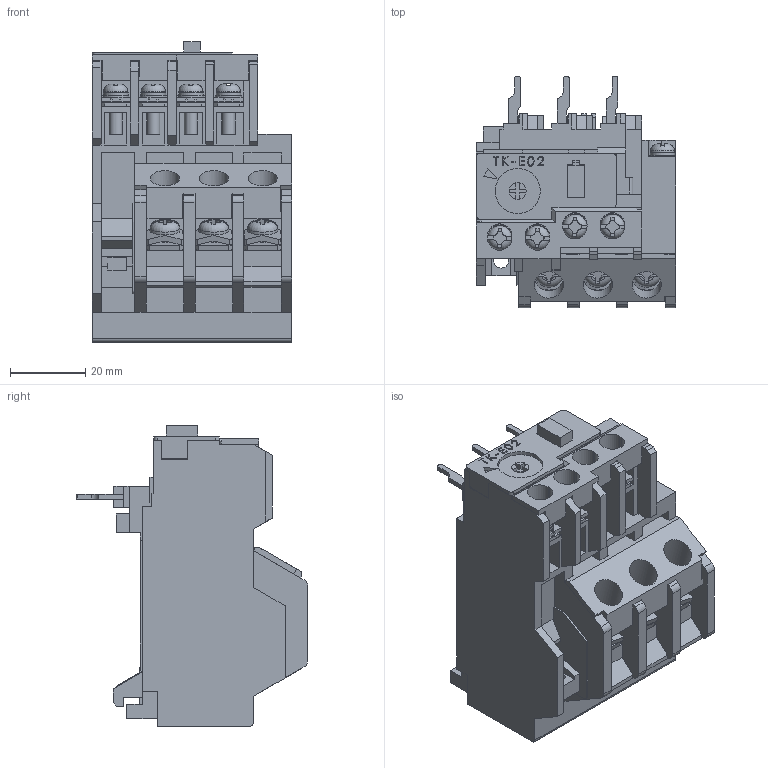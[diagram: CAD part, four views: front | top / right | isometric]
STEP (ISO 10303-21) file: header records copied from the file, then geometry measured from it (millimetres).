
FILE_DESCRIPTION (( 'STEP AP214' ), '1' );
FILE_NAME ('TK-E02.STEP', '2016-03-15T06:23:58', ( '川崎工場' ), ( '富士電機株式会社' ), 'SwSTEP 2.0', 'SolidWorks 2015', '' );
FILE_SCHEMA (( 'AUTOMOTIVE_DESIGN' ));
Length unit declared in the file: millimetre
Products named in the file (17): TK-E02_main terminal cover; TK-E02_auxiliary terminal cover; TK-E02_Case; TK-E02; Screw_M4_L10; Plate_M4_96-10; Plate_M3P5_7P8; screw M3P5L11^TK-E02; Washer_M3P5; Springwasher_M3P5; Screw_M3.5_L11; TK-E02_line plate; TK-E02_main terminal plate; TK-E02_scale; TK-E02_reset button; TK-E02_nameplate; TK-E02_auxiliary terminal plate
Assembly tree (35 placements, depth 3):
  TK-E02
    TK-E02_Case
    TK-E02_auxiliary terminal cover
    TK-E02_main terminal cover
    TK-E02_auxiliary terminal plate  x4
    TK-E02_nameplate
    TK-E02_reset button
    TK-E02_scale
    TK-E02_main terminal plate  x3
    TK-E02_line plate  x3
    screw M3P5L11^TK-E02  x6
      Screw_M3.5_L11
      Springwasher_M3P5
      Washer_M3P5
    Plate_M3P5_7P8  x4
    Plate_M4_96-10  x3
    Screw_M4_L10  x3
Bounding box: 53 x 61.6 x 80 mm (x, y, z)
Volume: 112500.2 mm3; surface area: 40948.8 mm2
Topology: 44 solids, 44 shells, 1363 faces, 3728 edges, 2467 vertices
Faces by surface type: plane 1131, cylinder 189, bspline 15, torus 15, cone 13
Full cylindrical faces by diameter (mm): 3.5 x20, 3.8 x6, 4 x12, 7 x6, 7.8 x3, 12 x3
Entity records: 29293 total; most frequent: CARTESIAN_POINT 6411, ORIENTED_EDGE 4750, DIRECTION 4266, EDGE_CURVE 2375, LINE 2068, VECTOR 2068, VERTEX_POINT 1586, AXIS2_PLACEMENT_3D 1099
